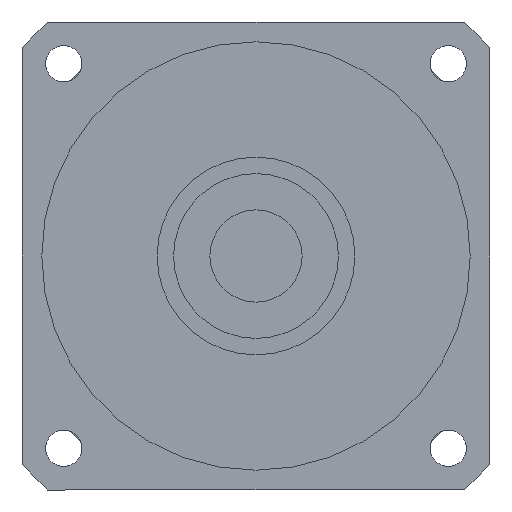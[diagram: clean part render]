
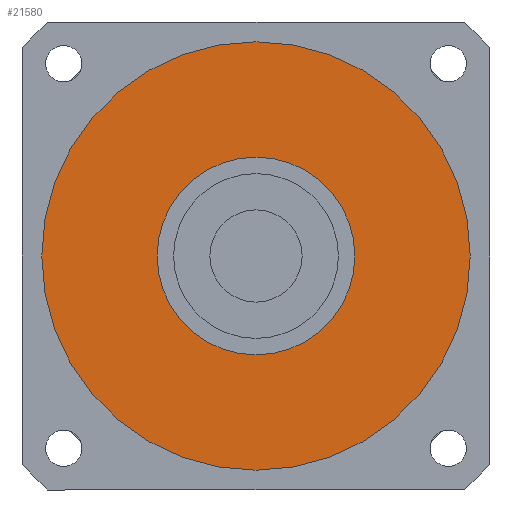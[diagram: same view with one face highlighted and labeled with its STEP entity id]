
A CAD part, left-side view. The second image highlights one B-rep face of the part: STEP entity #21580.
In plain terms, the highlighted planar face has unit normal (-1, 0, 0) as drawn and (0, 0, -1) by its records, which use the part's own axes.
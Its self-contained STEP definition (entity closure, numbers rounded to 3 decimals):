
#21000=CARTESIAN_POINT('',(-65.,0.,-115.5));
#21010=VERTEX_POINT('',#21000);
#21100=CARTESIAN_POINT('',(65.,0.,-115.5));
#21110=VERTEX_POINT('',#21100);
#21140=CARTESIAN_POINT('',(0.,0.,
-115.5));
#21150=DIRECTION('',(0.,0.,1.));
#21160=DIRECTION('',(0.,-1.,0.));
#21170=AXIS2_PLACEMENT_3D('',#21140,#21150,#21160);
#21180=CIRCLE('',#21170,65.);
#21190=CARTESIAN_POINT('',(0.,-65.,-115.5));
#21200=VERTEX_POINT('',#21190);
#21210=EDGE_CURVE('',#21200,#21110,#21180,.T.);
#21230=EDGE_CURVE('',#21010,#21200,#21180,.T.);
#21280=CARTESIAN_POINT('',(0.,0.,
-115.5));
#21290=DIRECTION('',(0.,0.,1.));
#21300=DIRECTION('',(-1.,0.,0.));
#21310=AXIS2_PLACEMENT_3D('',#21280,#21290,#21300);
#21320=PLANE('',#21310);
#21330=ORIENTED_EDGE('',*,*,#21210,.F.);
#21340=EDGE_CURVE('',#21110,#21010,#21180,.T.);
#21350=ORIENTED_EDGE('',*,*,#21340,.F.);
#21360=ORIENTED_EDGE('',*,*,#21230,.F.);
#21370=EDGE_LOOP('',(#21360,#21350,#21330));
#21380=FACE_OUTER_BOUND('',#21370,.T.);
#21390=CARTESIAN_POINT('',(0.,0.,
-115.5));
#21400=DIRECTION('',(0.,0.,1.));
#21410=DIRECTION('',(0.,-1.,0.));
#21420=AXIS2_PLACEMENT_3D('',#21390,#21400,#21410);
#21430=CIRCLE('',#21420,30.);
#21440=CARTESIAN_POINT('',(30.,0.,-115.5));
#21450=VERTEX_POINT('',#21440);
#21460=CARTESIAN_POINT('',(-30.,0.,-115.5));
#21470=VERTEX_POINT('',#21460);
#21480=EDGE_CURVE('',#21450,#21470,#21430,.T.);
#21490=ORIENTED_EDGE('',*,*,#21480,.T.);
#21500=CARTESIAN_POINT('',(0.,-30.,-115.5));
#21510=VERTEX_POINT('',#21500);
#21520=EDGE_CURVE('',#21510,#21450,#21430,.T.);
#21530=ORIENTED_EDGE('',*,*,#21520,.T.);
#21540=EDGE_CURVE('',#21470,#21510,#21430,.T.);
#21550=ORIENTED_EDGE('',*,*,#21540,.T.);
#21560=EDGE_LOOP('',(#21550,#21530,#21490));
#21570=FACE_BOUND('',#21560,.T.);
#21580=ADVANCED_FACE('',(#21380,#21570),#21320,.F.);
